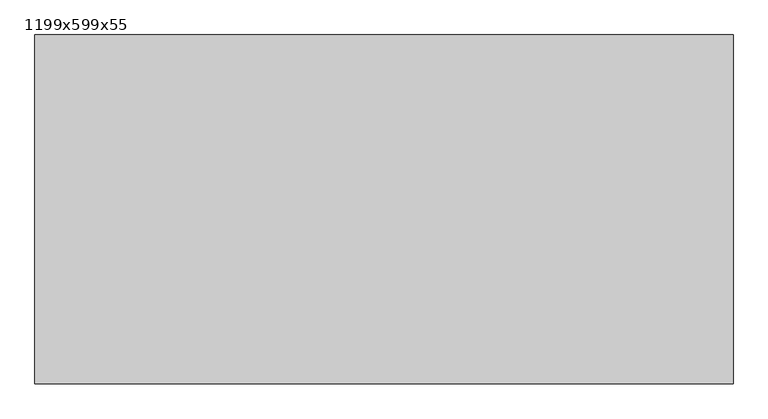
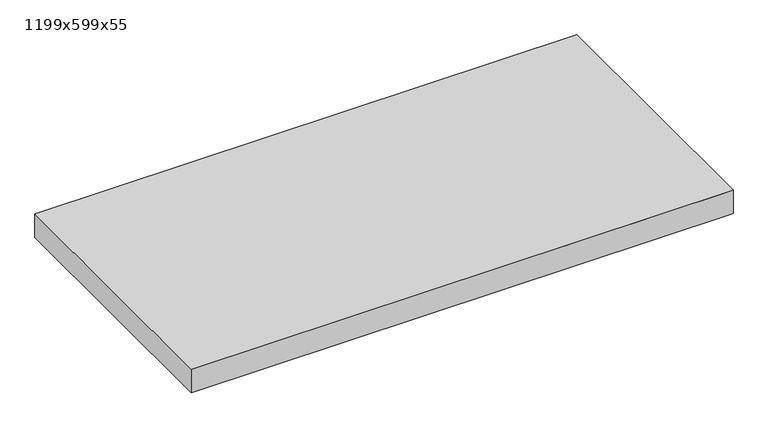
"""IFC4 building model written with IfcOpenShell, lengths in millimetres: proxy geometry, Texaa Panneaux Stereo fixés contre support par système magnétique séparés ou groupés au plafond : 1199x599x55."""

import ifcopenshell
import ifcopenshell.guid

model = None  # the IFC model being written
_history = None  # IfcOwnerHistory: only IFC2X3 demands one
_inside = {}  # id of a spatial element -> (the spatial element, [elements in it])
_under = {}  # id of a project, library or spatial element -> (it, [spatial elements below it])
_declared = {}  # id of a project -> (the project, [libraries it declares])
_typed = {}  # id of a type object -> (the type object, [elements of that type])
_made_of = {}  # id of a material, layer set ... -> (it, [elements and type objects made of it])


def new_model(schema):
    """Start an empty IFC model of exactly this schema.

    Asked for "IFC4X3", IfcOpenShell would pick the latest addendum, in which some entities
    have other attributes; the version numbers below select the first issue.
    IFC2X3 requires an IfcOwnerHistory on every rooted entity: one is made here for all.
    """
    global model, _history
    if schema == "IFC4X3":
        model = ifcopenshell.file(schema_version=(4, 3, 0, 0))
    else:
        model = ifcopenshell.file(schema=schema)
    _inside.clear()
    _under.clear()
    _declared.clear()
    _typed.clear()
    _made_of.clear()
    _history = None
    if model.schema == "IFC2X3":
        org = make("IfcOrganization", Name="unknown")
        user = make(
            "IfcPersonAndOrganization",
            ThePerson=make("IfcPerson", FamilyName="unknown"),
            TheOrganization=org,
        )
        app = make(
            "IfcApplication",
            ApplicationDeveloper=org,
            Version="unknown",
            ApplicationFullName="unknown",
            ApplicationIdentifier="unknown",
        )
        _history = make(
            "IfcOwnerHistory",
            OwningUser=user,
            OwningApplication=app,
            ChangeAction="ADDED",
            CreationDate=0,
        )
    return model


def make(cls, **values):
    """One entity of the class cls with the attributes given. An attribute that is None is left unset."""
    return model.create_entity(
        cls, **{name: value for name, value in values.items() if value is not None}
    )


def rooted(cls, **values):
    """An entity with a GlobalId (a new one), such as an element, a storey or a relation."""
    return make(cls, GlobalId=ifcopenshell.guid.new(), OwnerHistory=_history, **values)


def si_unit(unit_type, name, prefix=None):
    """IfcSIUnit, for example si_unit("LENGTHUNIT", "METRE", prefix="MILLI")."""
    return make("IfcSIUnit", UnitType=unit_type, Prefix=prefix, Name=name)


def assignment(units):
    """IfcUnitAssignment: the units of a project."""
    return None if units is None else make("IfcUnitAssignment", Units=units)


def point(xyz):
    """IfcCartesianPoint."""
    return None if xyz is None else make("IfcCartesianPoint", Coordinates=xyz)


def direction(xyz):
    """IfcDirection."""
    return None if xyz is None else make("IfcDirection", DirectionRatios=xyz)


def frame(location, z_axis=None, x_axis=None):
    """IfcAxis2Placement3D, a coordinate frame: its origin and axes. An axis left out is left unset."""
    return make(
        "IfcAxis2Placement3D",
        Location=point(location),
        Axis=direction(z_axis),
        RefDirection=direction(x_axis),
    )


def origin():
    """The frame at (0, 0, 0) with its axes left unset."""
    return frame((0.0, 0.0, 0.0))


def place(relative_to, where):
    """IfcLocalPlacement: puts the frame where relative to a parent placement (None: the world)."""
    return make(
        "IfcLocalPlacement", PlacementRelTo=relative_to, RelativePlacement=where
    )


def context(
    kind, dimensions, precision=None, world=None, true_north=None, identifier=None
):
    """IfcGeometricRepresentationContext, for example the 3D "Model" context."""
    return make(
        "IfcGeometricRepresentationContext",
        ContextIdentifier=identifier,
        ContextType=kind,
        CoordinateSpaceDimension=dimensions,
        Precision=precision,
        WorldCoordinateSystem=world,
        TrueNorth=true_north,
    )


def project(units=None, contexts=None):
    """IfcProject with its units and contexts."""
    return rooted(
        "IfcProject",
        Name="project",
        RepresentationContexts=contexts,
        UnitsInContext=assignment(units),
    )


def spatial(cls, under=None, at=None, **own):
    """A site, building, storey or space (cls), placed at a placement, below another one or the project."""
    s = rooted(cls, ObjectPlacement=at, **own)
    if under is not None:
        _under.setdefault(under.id(), (under, []))[1].append(s)
    return s


def polyline(points):
    """IfcPolyline through the points."""
    return make("IfcPolyline", Points=[point(p) for p in points])


def outline(outer, holes=None, kind="AREA"):
    """IfcArbitraryClosedProfileDef: a profile drawn as a closed curve; with holes, ...WithVoids."""
    if holes is None:
        return make("IfcArbitraryClosedProfileDef", ProfileType=kind, OuterCurve=outer)
    return make(
        "IfcArbitraryProfileDefWithVoids",
        ProfileType=kind,
        OuterCurve=outer,
        InnerCurves=holes,
    )


def extrude(swept, where, along, depth):
    """IfcExtrudedAreaSolid: the profile swept, set in the frame where, extruded along a direction by depth."""
    return make(
        "IfcExtrudedAreaSolid",
        SweptArea=swept,
        Position=where,
        ExtrudedDirection=direction(along),
        Depth=depth,
    )


def faces_of(points, faces, orient=None, outer=None):
    """IfcFace entities. A face is a list of loops; a loop is a list of indices into points, from 0.

    orient and outer hold one flag for each loop. By default every Orientation is true, the
    first loop of a face is its IfcFaceOuterBound and the others are IfcFaceBound.
    """
    made = []
    for i, loops in enumerate(faces):
        bounds = []
        for j, loop in enumerate(loops):
            is_outer = j == 0 if outer is None else outer[i][j]
            bounds.append(
                make(
                    "IfcFaceOuterBound" if is_outer else "IfcFaceBound",
                    Bound=make("IfcPolyLoop", Polygon=[points[k] for k in loop]),
                    Orientation=True if orient is None else orient[i][j],
                )
            )
        made.append(make("IfcFace", Bounds=bounds))
    return made


def faceted_brep(points, faces, orient=None, outer=None, voids=None):
    """IfcFacetedBrep: a solid bounded by flat faces; with voids (closed shells), ...WithVoids."""
    shared = [point(p) for p in points]
    hull = make("IfcClosedShell", CfsFaces=faces_of(shared, faces, orient, outer))
    if voids is None:
        return make("IfcFacetedBrep", Outer=hull)
    return make(
        "IfcFacetedBrepWithVoids",
        Outer=hull,
        Voids=[
            make(cls, CfsFaces=faces_of(shared, fs, o, b)) for cls, fs, o, b in voids
        ],
    )


def shape(context_of_items, identifier, shape_type, items):
    """IfcShapeRepresentation: the items that make up one representation, for example the "Body"."""
    return make(
        "IfcShapeRepresentation",
        ContextOfItems=context_of_items,
        RepresentationIdentifier=identifier,
        RepresentationType=shape_type,
        Items=items,
    )


def source(mapping_origin, context_of_items, identifier, shape_type, items):
    """IfcRepresentationMap: a shape defined once, which mapped items show again and again."""
    return make(
        "IfcRepresentationMap",
        MappingOrigin=mapping_origin,
        MappedRepresentation=shape(context_of_items, identifier, shape_type, items),
    )


def transform(
    local_origin,
    x_axis=None,
    y_axis=None,
    z_axis=None,
    scale=None,
    scale2=None,
    scale3=None,
    uniform=True,
):
    """IfcCartesianTransformationOperator3D, or its non-uniform kind. x_axis, y_axis, z_axis: its Axis1, 2, 3."""
    if uniform:
        return make(
            "IfcCartesianTransformationOperator3D",
            Axis1=direction(x_axis),
            Axis2=direction(y_axis),
            LocalOrigin=point(local_origin),
            Scale=scale,
            Axis3=direction(z_axis),
        )
    return make(
        "IfcCartesianTransformationOperator3DnonUniform",
        Axis1=direction(x_axis),
        Axis2=direction(y_axis),
        LocalOrigin=point(local_origin),
        Scale=scale,
        Axis3=direction(z_axis),
        Scale2=scale2,
        Scale3=scale3,
    )


def mapped(mapping_source, mapping_target):
    """IfcMappedItem: shows the shape of a source again, moved by a transform."""
    return make(
        "IfcMappedItem", MappingSource=mapping_source, MappingTarget=mapping_target
    )


def made_of(thing, what):
    """Note that an element or type object is made of a material, layer set ...; save() writes the relation."""
    if what is not None:
        _made_of.setdefault(what.id(), (what, []))[1].append(thing)
    return thing


def element(
    cls,
    number,
    at=None,
    inside=None,
    cuts=None,
    type_object=None,
    material=None,
    context=None,
    identifier="Body",
    shape_type=None,
    held_by="IfcProductDefinitionShape",
    body=None,
    shapes=None,
    **own,
):
    """One element of the class cls, such as IfcWall. Its Tag is "e" and its number.

    at: its placement. inside: the storey or other place that contains it. cuts: it is an
    opening in that element (IfcRelVoidsElement). A single representation is given by context,
    identifier, shape_type and body (its items); several are given by shapes. held_by: the class
    of the entity that holds the representations. save() writes the other relations.
    """
    e = rooted(cls, Tag="e%d" % number, ObjectPlacement=at, **own)
    if body is not None:
        shapes = [shape(context, identifier, shape_type, body)]
    if shapes is not None:
        e.Representation = make(held_by, Representations=shapes)
    if inside is not None:
        _inside.setdefault(inside.id(), (inside, []))[1].append(e)
    if cuts is not None:
        rooted(
            "IfcRelVoidsElement", RelatingBuildingElement=cuts, RelatedOpeningElement=e
        )
    if type_object is not None:
        _typed.setdefault(type_object.id(), (type_object, []))[1].append(e)
    return made_of(e, material)


def aggregate(whole, parts):
    """IfcRelAggregates: a whole, such as a stair, and the parts it consists of."""
    return rooted("IfcRelAggregates", RelatingObject=whole, RelatedObjects=parts)


def save(model, path):
    """Write the relations noted so far, then the file.

    IfcRelAggregates (storeys below a building ...), IfcRelContainedInSpatialStructure (elements
    in a storey), IfcRelDefinesByType, IfcRelAssociatesMaterial and IfcRelDeclares: one each for
    every whole, place, type object, material and project.
    """
    for whole, parts in _under.values():
        aggregate(whole, parts)
    for where, things in _inside.values():
        rooted(
            "IfcRelContainedInSpatialStructure",
            RelatedElements=things,
            RelatingStructure=where,
        )
    for kind, things in _typed.values():
        rooted("IfcRelDefinesByType", RelatedObjects=things, RelatingType=kind)
    for what, things in _made_of.values():
        rooted("IfcRelAssociatesMaterial", RelatedObjects=things, RelatingMaterial=what)
    for by, libraries in _declared.values():
        rooted("IfcRelDeclares", RelatingContext=by, RelatedDefinitions=libraries)
    model.write(path)


def proxy_1199x599x55_a8994fcc(model_context):
    return source(origin(), model_context, "Body", "SolidModel", [
        extrude(outline(polyline([(-598.5, -298.5), (-598.5, 298.5), (598.5, 298.5), (598.5, -298.5), (-598.5, -298.5)])), frame((0.0, 0.0, 11.0), z_axis=(0.0, 0.0, 1.0), x_axis=(1.0, 0.0, 0.0)), (0.0, 0.0, 1.0), 53.0),
        faceted_brep([(599.5, 299.5, 65.0), (-599.5, 299.5, 65.0), (-599.5, -299.5, 65.0), (599.5, -299.5, 65.0), (-599.5, -299.5, 10.0), (-599.5, 299.5, 10.0), (599.5, 299.5, 10.0), (599.5, -299.5, 10.0), (-549.5, 249.5, 10.0), (-549.5, -249.5, 10.0), (549.5, -249.5, 10.0), (549.5, 249.5, 10.0), (549.5, 249.5, 11.0), (-549.5, 249.5, 11.0), (549.5, -249.5, 11.0), (-549.5, -249.5, 11.0), (598.5, -298.5, 64.0), (-598.5, -298.5, 64.0), (-598.5, 298.5, 64.0), (598.5, 298.5, 64.0), (-598.5, -298.5, 11.0), (598.5, -298.5, 11.0), (598.5, 298.5, 11.0), (-598.5, 298.5, 11.0)], [[[0, 1, 2, 3]], [[4, 5, 6, 7], [8, 9, 10, 11]], [[4, 2, 1, 5]], [[5, 1, 0, 6]], [[3, 7, 6, 0]], [[2, 4, 7, 3]], [[8, 11, 12, 13]], [[11, 10, 14, 12]], [[10, 9, 15, 14]], [[13, 15, 9, 8]], [[16, 17, 18, 19]], [[20, 21, 22, 23], [12, 14, 15, 13]], [[23, 18, 17, 20]], [[22, 19, 18, 23]], [[19, 22, 21, 16]], [[20, 17, 16, 21]]]),
    ])


if __name__ == "__main__":
    model = new_model("IFC4")
    model_context = context("Model", 3, world=origin())
    ifc_project = project(units=[si_unit("LENGTHUNIT", "METRE", prefix="MILLI")], contexts=[model_context])
    site = spatial("IfcSite", under=ifc_project)
    building = spatial("IfcBuilding", under=site)
    placement = place(None, origin())
    proxy_1199x599x55_shape = proxy_1199x599x55_a8994fcc(model_context)
    element("IfcBuildingElementProxy", 1, Name="Texaa Panneaux Stereo fixés contre support par système magnétique séparés ou groupés au plafond : 1199x599x55", ObjectType="Texaa Panneaux Stereo fixés contre support par système magnétique séparés ou groupés au plafond : 1199x599x55", at=placement, inside=building, context=model_context, shape_type="MappedRepresentation", body=[
        mapped(proxy_1199x599x55_shape, transform((0.0, 0.0, 0.0), x_axis=(1.0, 0.0, 0.0), y_axis=(0.0, 1.0, 0.0), z_axis=(0.0, 0.0, 1.0))),
    ])
    save(model, "model.ifc")
